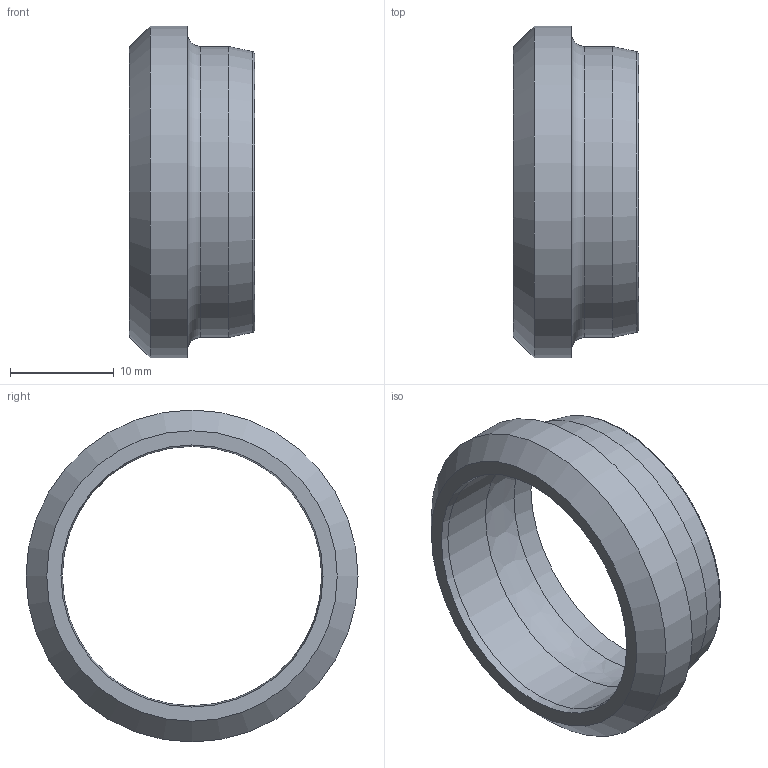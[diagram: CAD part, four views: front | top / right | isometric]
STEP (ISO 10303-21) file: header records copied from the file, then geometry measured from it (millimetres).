
FILE_DESCRIPTION( ( 'Unknown' ), '1' );
FILE_NAME( 'C:/Users/p.nanko/Desktop/3D SR/D25S.stp', 'Unknown', ( 'Peter Nanko' ), ( 'Armaturen Arndt' ), 'PSStep 14.0', 'Solid Edge ST4', ' ' );
FILE_SCHEMA( ( 'AUTOMOTIVE_DESIGN { 1 0 10303 214 1 1 1 1 }' ) );
Length unit declared in the file: millimetre
Products named in the file (1): 1001ESTERNO#0
Bounding box: 12.07 x 32 x 32 mm (x, y, z)
Volume: 2233.9 mm3; surface area: 2519.5 mm2
Topology: 1 solids, 1 shells, 15 faces, 30 edges, 19 vertices
Faces by surface type: plane 4, cone 4, torus 3, cylinder 3, bspline 1
Full cylindrical faces by diameter (mm): 25 x1, 28.05 x1, 32 x1
Entity records: 467 total; most frequent: CARTESIAN_POINT 73, DIRECTION 60, AXIS2_PLACEMENT_3D 30, EDGE_LOOP 30, ORIENTED_EDGE 30, FACE_OUTER_BOUND 22, STYLED_ITEM 15, PRESENTATION_STYLE_ASSIGNMENT 15
